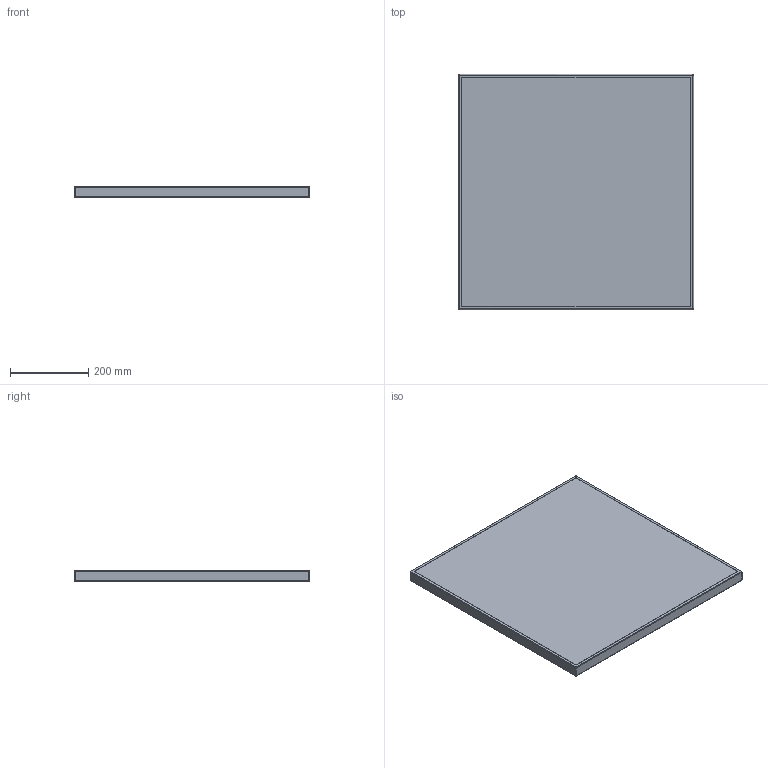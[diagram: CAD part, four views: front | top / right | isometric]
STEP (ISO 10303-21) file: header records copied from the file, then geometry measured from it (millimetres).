
FILE_DESCRIPTION(/* description */ (''),/* implementation_level */ '2;1');
FILE_NAME(/* name */ 'kinoshita_abord_tt008-600-600',/* time_stamp */ '2024-07-30T14:44:24+09:00',/* author */ (''),/* organization */ (''),/* preprocessor_version */ 'ST-DEVELOPER v16.5',/* originating_system */ '',/* authorisation */ '');
FILE_SCHEMA (('AUTOMOTIVE_DESIGN'));
Length unit declared in the file: millimetre
Products named in the file (1): Document
Bounding box: 600 x 600 x 29 mm (x, y, z)
Volume: 10426195.2 mm3; surface area: 784843.8 mm2
Topology: 1 solids, 1 shells, 32 faces, 64 edges, 36 vertices
Faces by surface type: bspline 24, plane 8
Entity records: 881 total; most frequent: CARTESIAN_POINT 464, ORIENTED_EDGE 128, EDGE_CURVE 64, B_SPLINE_CURVE_WITH_KNOTS 40, VERTEX_POINT 36, EDGE_LOOP 34, ADVANCED_FACE 32, FACE_OUTER_BOUND 32
